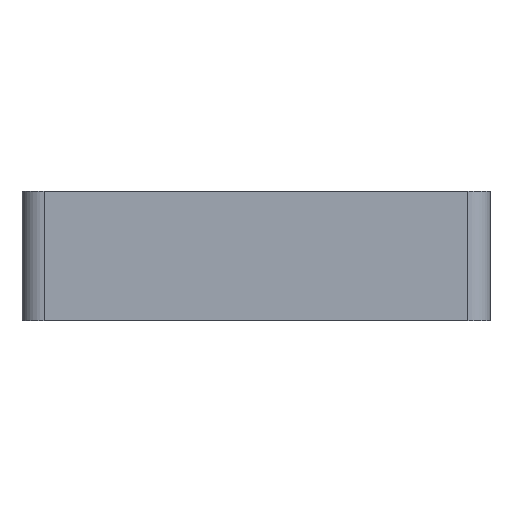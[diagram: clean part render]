
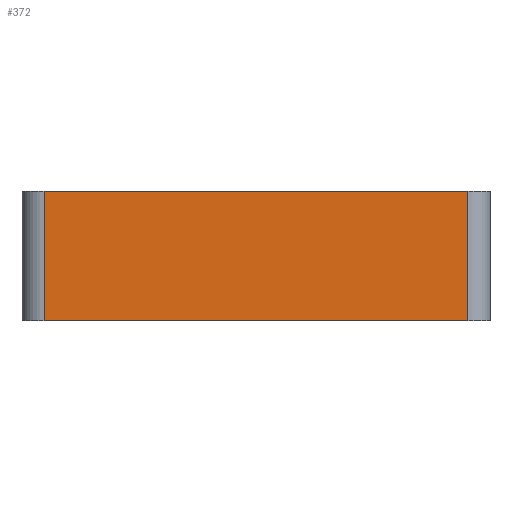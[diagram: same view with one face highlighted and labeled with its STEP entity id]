
A CAD part, left-side view. The second image highlights one B-rep face of the part: STEP entity #372.
In plain terms, the highlighted planar face has unit normal (-1, 0, 0).
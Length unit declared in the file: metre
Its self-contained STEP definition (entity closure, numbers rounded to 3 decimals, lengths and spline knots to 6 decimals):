
#54=ORIENTED_EDGE('',*,*,#157,.F.);
#55=ORIENTED_EDGE('',*,*,#158,.F.);
#56=ORIENTED_EDGE('',*,*,#159,.T.);
#57=ORIENTED_EDGE('',*,*,#155,.T.);
#155=EDGE_CURVE('',#205,#204,#240,.T.);
#157=EDGE_CURVE('',#206,#204,#241,.T.);
#158=EDGE_CURVE('',#207,#206,#242,.T.);
#159=EDGE_CURVE('',#207,#205,#243,.T.);
#204=VERTEX_POINT('',#575);
#205=VERTEX_POINT('',#577);
#206=VERTEX_POINT('',#581);
#207=VERTEX_POINT('',#583);
#240=LINE('',#576,#282);
#241=LINE('',#580,#283);
#242=LINE('',#582,#284);
#243=LINE('',#584,#285);
#282=VECTOR('',#467,1.);
#283=VECTOR('',#472,1.);
#284=VECTOR('',#473,1.);
#285=VECTOR('',#474,1.);
#318=EDGE_LOOP('',(#54,#55,#56,#57));
#338=FACE_BOUND('',#318,.T.);
#355=PLANE('',#411);
#372=ADVANCED_FACE('',(#338),#355,.T.);
#411=AXIS2_PLACEMENT_3D('',#579,#470,#471);
#467=DIRECTION('',(0.,0.,-1.));
#470=DIRECTION('',(-1.,0.,0.));
#471=DIRECTION('',(0.,0.,1.));
#472=DIRECTION('',(0.,1.,0.));
#473=DIRECTION('',(0.,0.,-1.));
#474=DIRECTION('',(0.,1.,0.));
#575=CARTESIAN_POINT('',(0.,0.01,-0.00145));
#576=CARTESIAN_POINT('',(0.,0.01,0.00145));
#577=CARTESIAN_POINT('',(0.,0.01,0.00145));
#579=CARTESIAN_POINT('',(0.,0.00525,0.00145));
#580=CARTESIAN_POINT('',(0.,0.00525,-0.00145));
#581=CARTESIAN_POINT('',(0.,0.0005,-0.00145));
#582=CARTESIAN_POINT('',(0.,0.0005,0.00145));
#583=CARTESIAN_POINT('',(0.,0.0005,0.00145));
#584=CARTESIAN_POINT('',(0.,0.00525,0.00145));
